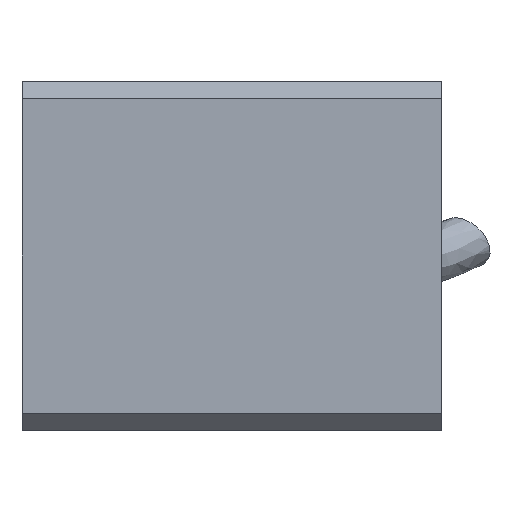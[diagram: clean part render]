
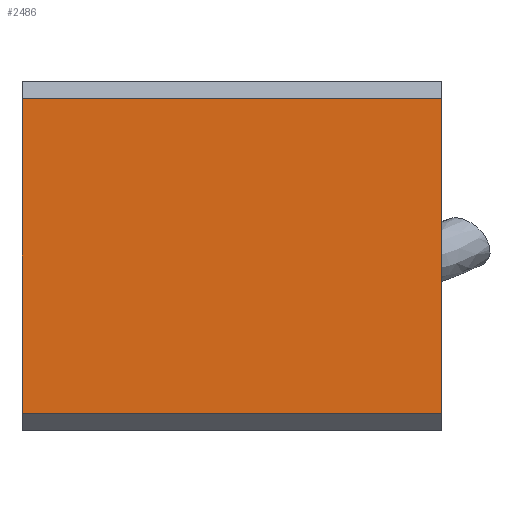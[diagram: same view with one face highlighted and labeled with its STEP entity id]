
A CAD part, front view. The second image highlights one B-rep face of the part: STEP entity #2486.
In plain terms, the highlighted planar face has unit normal (0, -1, 0).
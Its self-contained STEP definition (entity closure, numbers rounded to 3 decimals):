
#634 = VECTOR ( 'NONE', #7099, 1000. ) ;
#673 = CARTESIAN_POINT ( 'NONE',  ( -36., -30., -27. ) ) ;
#1169 = DIRECTION ( 'NONE',  ( 0., 0., 1. ) ) ;
#1350 = CARTESIAN_POINT ( 'NONE',  ( 36., -30., 27. ) ) ;
#1390 = LINE ( 'NONE', #6253, #14442 ) ;
#2053 = CARTESIAN_POINT ( 'NONE',  ( -36., -30., 27. ) ) ;
#2123 = PLANE ( 'NONE',  #12536 ) ;
#2283 = CARTESIAN_POINT ( 'NONE',  ( -36., -30., 27. ) ) ;
#2315 = ORIENTED_EDGE ( 'NONE', *, *, #14385, .F. ) ;
#2393 = EDGE_CURVE ( 'NONE', #3742, #11178, #6981, .T. ) ;
#2486 = ADVANCED_FACE ( 'NONE', ( #8384 ), #2123, .F. ) ;
#3080 = EDGE_LOOP ( 'NONE', ( #8489, #14503, #3846, #2315 ) ) ;
#3166 = VECTOR ( 'NONE', #6321, 1000. ) ;
#3255 = VERTEX_POINT ( 'NONE', #11002 ) ;
#3575 = DIRECTION ( 'NONE',  ( 1., 0., 0. ) ) ;
#3742 = VERTEX_POINT ( 'NONE', #2053 ) ;
#3846 = ORIENTED_EDGE ( 'NONE', *, *, #16139, .F. ) ;
#6253 = CARTESIAN_POINT ( 'NONE',  ( -36., -30., -27. ) ) ;
#6321 = DIRECTION ( 'NONE',  ( 0., 0., -1. ) ) ;
#6981 = LINE ( 'NONE', #14640, #634 ) ;
#7099 = DIRECTION ( 'NONE',  ( 0., 0., -1. ) ) ;
#8384 = FACE_OUTER_BOUND ( 'NONE', #3080, .T. ) ;
#8489 = ORIENTED_EDGE ( 'NONE', *, *, #2393, .T. ) ;
#8736 = DIRECTION ( 'NONE',  ( 0., 1., 0. ) ) ;
#9640 = LINE ( 'NONE', #2283, #15954 ) ;
#10998 = EDGE_CURVE ( 'NONE', #11178, #3255, #1390, .T. ) ;
#11002 = CARTESIAN_POINT ( 'NONE',  ( 36., -30., -27. ) ) ;
#11178 = VERTEX_POINT ( 'NONE', #673 ) ;
#12524 = CARTESIAN_POINT ( 'NONE',  ( 36., -30., 30. ) ) ;
#12536 = AXIS2_PLACEMENT_3D ( 'NONE', #16334, #8736, #1169 ) ;
#12848 = LINE ( 'NONE', #12524, #3166 ) ;
#12861 = DIRECTION ( 'NONE',  ( 1., 0., 0. ) ) ;
#13451 = VERTEX_POINT ( 'NONE', #1350 ) ;
#14385 = EDGE_CURVE ( 'NONE', #3742, #13451, #9640, .T. ) ;
#14442 = VECTOR ( 'NONE', #12861, 1000. ) ;
#14503 = ORIENTED_EDGE ( 'NONE', *, *, #10998, .T. ) ;
#14640 = CARTESIAN_POINT ( 'NONE',  ( -36., -30., 30. ) ) ;
#15954 = VECTOR ( 'NONE', #3575, 1000. ) ;
#16139 = EDGE_CURVE ( 'NONE', #13451, #3255, #12848, .T. ) ;
#16334 = CARTESIAN_POINT ( 'NONE',  ( 36., -30., 30. ) ) ;
